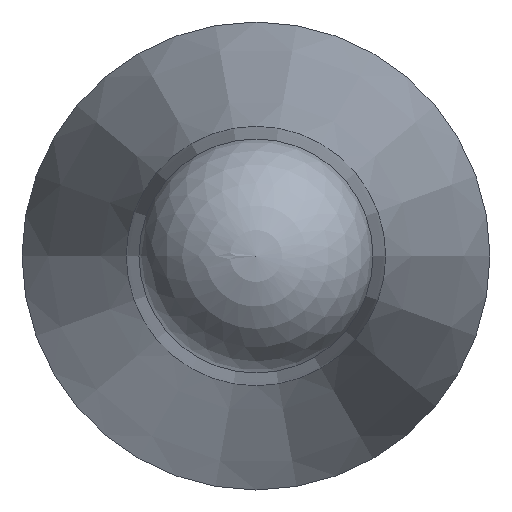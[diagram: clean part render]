
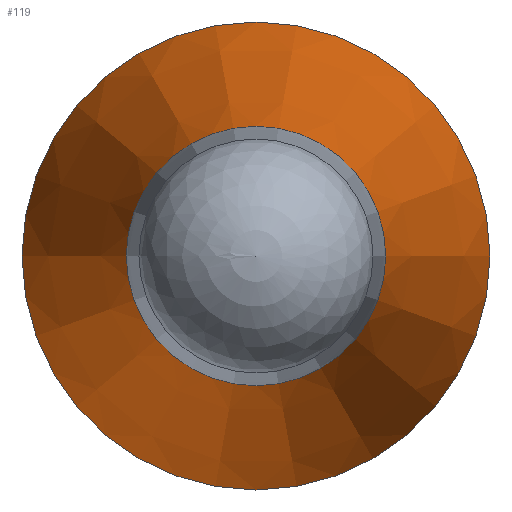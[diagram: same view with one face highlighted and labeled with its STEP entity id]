
A CAD part, left-side view. The second image highlights one B-rep face of the part: STEP entity #119.
In plain terms, the highlighted conical face has half-angle 12 degrees and reference radius 3 mm.
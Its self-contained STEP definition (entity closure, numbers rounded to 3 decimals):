
#97=CONICAL_SURFACE('',#194,3.,12.);
#106=FACE_BOUND('',#134,.T.);
#107=FACE_BOUND('',#135,.T.);
#119=ADVANCED_FACE('',(#106,#107),#97,.T.);
#134=EDGE_LOOP('',(#150));
#135=EDGE_LOOP('',(#151));
#150=ORIENTED_EDGE('',*,*,#172,.T.);
#151=ORIENTED_EDGE('',*,*,#173,.F.);
#164=VERTEX_POINT('',#249);
#165=VERTEX_POINT('',#252);
#172=EDGE_CURVE('',#164,#164,#180,.T.);
#173=EDGE_CURVE('',#165,#165,#181,.T.);
#180=CIRCLE('',#191,1.662);
#181=CIRCLE('',#193,3.);
#191=AXIS2_PLACEMENT_3D('',#248,#215,#216);
#193=AXIS2_PLACEMENT_3D('',#251,#219,#220);
#194=AXIS2_PLACEMENT_3D('',#253,#221,#222);
#215=DIRECTION('',(1.,0.,0.));
#216=DIRECTION('',(0.,1.,0.));
#219=DIRECTION('',(1.,0.,0.));
#220=DIRECTION('',(0.,1.,0.));
#221=DIRECTION('',(1.,0.,0.));
#222=DIRECTION('',(0.,1.,0.));
#248=CARTESIAN_POINT('',(7909.912,6103.288,0.));
#249=CARTESIAN_POINT('',(7909.912,6104.95,0.));
#251=CARTESIAN_POINT('',(7916.206,6103.288,0.));
#252=CARTESIAN_POINT('',(7916.206,6106.288,0.));
#253=CARTESIAN_POINT('',(7916.206,6103.288,0.));
